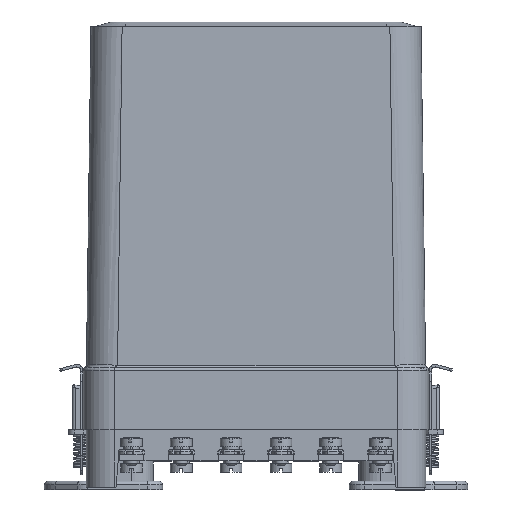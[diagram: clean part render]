
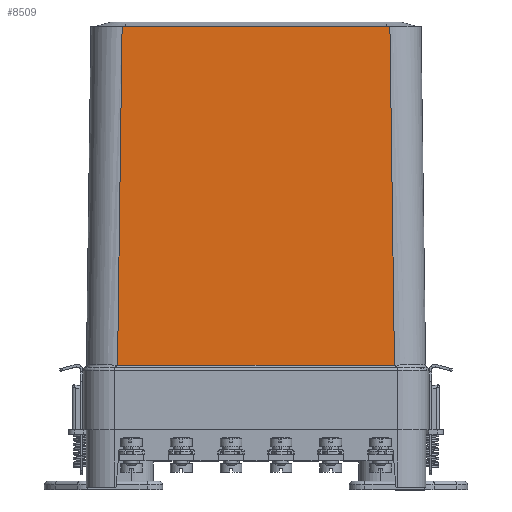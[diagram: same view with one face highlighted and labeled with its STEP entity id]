
A CAD part, top view. The second image highlights one B-rep face of the part: STEP entity #8509.
In plain terms, the highlighted planar face has unit normal (0, 0.013, 1).
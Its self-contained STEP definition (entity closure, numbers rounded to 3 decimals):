
#8509=ADVANCED_FACE('',(#33286),#33288,.T.);
#33286=FACE_BOUND('',#33287,.T.);
#33287=EDGE_LOOP('',(#45693,#45694,#45695,#45696));
#33288=PLANE('',#33289);
#33289=AXIS2_PLACEMENT_3D('',#33290,#33291,#33292);
#33290=CARTESIAN_POINT('',(43.,149.5,30.5));
#33291=DIRECTION('',(0.,0.014,1.));
#33292=DIRECTION('',(-1.,0.,0.));
#45693=ORIENTED_EDGE('',*,*,#52170,.T.);
#45694=ORIENTED_EDGE('',*,*,#52952,.F.);
#45695=ORIENTED_EDGE('',*,*,#52942,.T.);
#45696=ORIENTED_EDGE('',*,*,#52953,.T.);
#52170=EDGE_CURVE('',#58715,#58713,#58716,.T.);
#52942=EDGE_CURVE('',#59975,#59973,#59976,.T.);
#52952=EDGE_CURVE('',#59975,#58713,#59994,.T.);
#52953=EDGE_CURVE('',#59973,#58715,#59995,.T.);
#58713=VERTEX_POINT('',#74091);
#58715=VERTEX_POINT('',#74097);
#58716=LINE('',#74098,#74099);
#59973=VERTEX_POINT('',#77791);
#59975=VERTEX_POINT('',#77855);
#59976=LINE('',#77856,#77857);
#59994=LINE('',#77958,#77959);
#59995=LINE('',#77961,#77962);
#74091=CARTESIAN_POINT('',(44.49,39.224,31.99));
#74097=CARTESIAN_POINT('',(-44.49,39.224,31.99));
#74098=CARTESIAN_POINT('',(-44.49,39.224,31.99));
#74099=VECTOR('',#74100,1.);
#74100=DIRECTION('',(1.,0.,0.));
#77791=CARTESIAN_POINT('',(-43.02,148.,30.52));
#77855=CARTESIAN_POINT('',(43.02,148.,30.52));
#77856=CARTESIAN_POINT('',(43.02,148.,30.52));
#77857=VECTOR('',#77858,1.);
#77858=DIRECTION('',(-1.,0.,0.));
#77958=CARTESIAN_POINT('',(43.02,148.,30.52));
#77959=VECTOR('',#77960,1.);
#77960=DIRECTION('',(0.014,-1.,0.014));
#77961=CARTESIAN_POINT('',(-43.02,148.,30.52));
#77962=VECTOR('',#77963,1.);
#77963=DIRECTION('',(-0.014,-1.,0.014));
